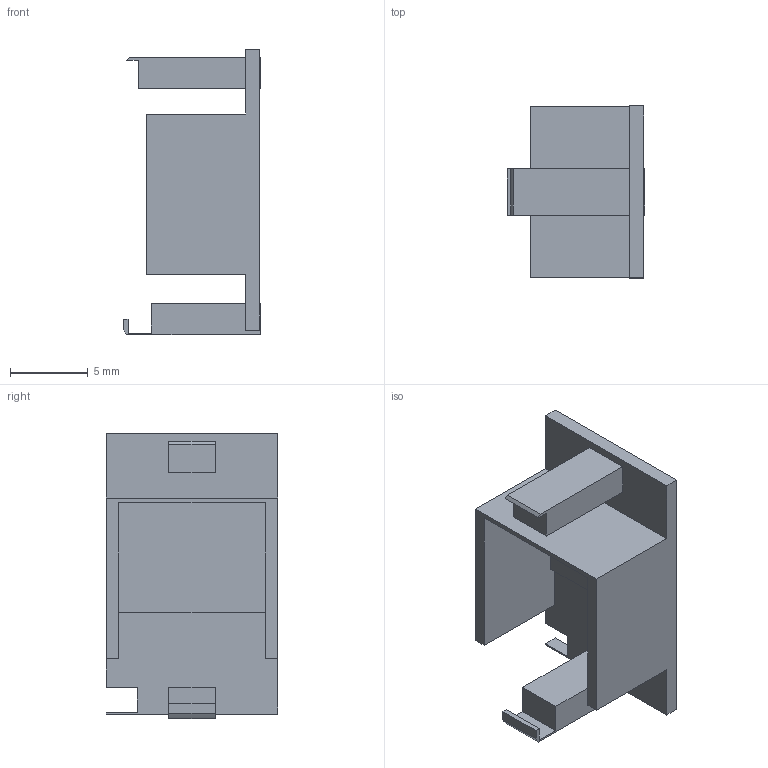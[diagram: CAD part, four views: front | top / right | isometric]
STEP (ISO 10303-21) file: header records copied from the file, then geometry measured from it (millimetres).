
FILE_DESCRIPTION(('Open CASCADE Model'),'2;1');
FILE_NAME('Open CASCADE Shape Model','2026-09-06T11:30:36',('Author'),( 'Open CASCADE'),'Open CASCADE STEP processor 7.7','Open CASCADE 7.7' ,'Unknown');
FILE_SCHEMA(('AUTOMOTIVE_DESIGN { 1 0 10303 214 1 1 1 1 }'));
Length unit declared in the file: millimetre
Products named in the file (1): Open CASCADE STEP translator 7.7 5
Bounding box: 8.8 x 11 x 18.3 mm (x, y, z)
Volume: 398.5 mm3; surface area: 992.5 mm2
Topology: 1 solids, 1 shells, 45 faces, 123 edges, 82 vertices
Faces by surface type: plane 43, cylinder 2
Entity records: 3006 total; most frequent: CARTESIAN_POINT 501, DIRECTION 461, LINE 357, VECTOR 357, ORIENTED_EDGE 246, PCURVE 246, DEFINITIONAL_REPRESENTATION 246, EDGE_CURVE 123
